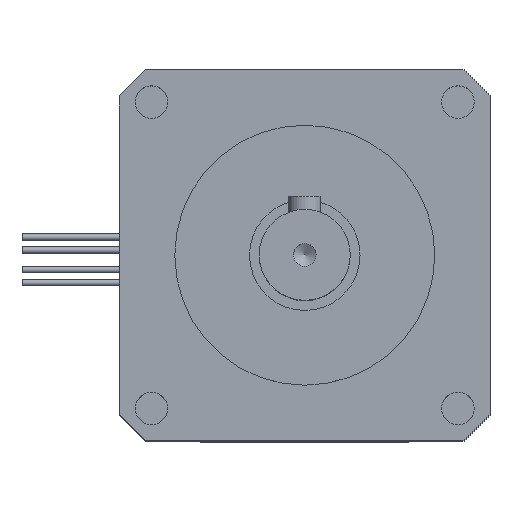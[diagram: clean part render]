
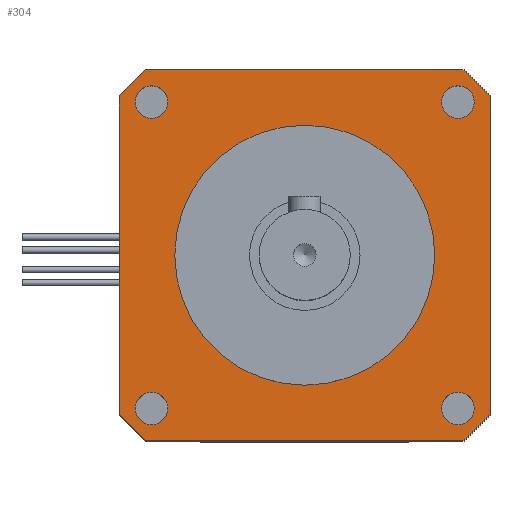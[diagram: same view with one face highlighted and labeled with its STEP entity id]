
A CAD part, top view. The second image highlights one B-rep face of the part: STEP entity #304.
In plain terms, the highlighted planar face has unit normal (0, 0, 1).
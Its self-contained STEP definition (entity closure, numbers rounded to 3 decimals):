
#304=ADVANCED_FACE('',(#1076,#1077,#1078,#1079,#1080,#1081),#456,.F.);
#456=PLANE('',#2836);
#556=LINE('',#3935,#812);
#560=LINE('',#3943,#816);
#563=LINE('',#3949,#819);
#566=LINE('',#3955,#822);
#568=LINE('',#3959,#824);
#569=LINE('',#3960,#825);
#570=LINE('',#3961,#826);
#571=LINE('',#3962,#827);
#812=VECTOR('',#3138,1.);
#816=VECTOR('',#3144,1.);
#819=VECTOR('',#3149,1.);
#822=VECTOR('',#3154,1.);
#824=VECTOR('',#3158,1.);
#825=VECTOR('',#3159,1.);
#826=VECTOR('',#3160,1.);
#827=VECTOR('',#3161,1.);
#1076=FACE_BOUND('',#1145,.T.);
#1077=FACE_BOUND('',#1146,.T.);
#1078=FACE_BOUND('',#1147,.T.);
#1079=FACE_BOUND('',#1148,.T.);
#1080=FACE_BOUND('',#1149,.T.);
#1081=FACE_BOUND('',#1150,.T.);
#1145=EDGE_LOOP('',(#1365));
#1146=EDGE_LOOP('',(#1366,#1367,#1368,#1369,#1370,#1371,#1372,#1373));
#1147=EDGE_LOOP('',(#1374));
#1148=EDGE_LOOP('',(#1375));
#1149=EDGE_LOOP('',(#1376));
#1150=EDGE_LOOP('',(#1377));
#1365=ORIENTED_EDGE('',*,*,#2340,.T.);
#1366=ORIENTED_EDGE('',*,*,#2345,.F.);
#1367=ORIENTED_EDGE('',*,*,#2353,.T.);
#1368=ORIENTED_EDGE('',*,*,#2341,.F.);
#1369=ORIENTED_EDGE('',*,*,#2354,.T.);
#1370=ORIENTED_EDGE('',*,*,#2351,.F.);
#1371=ORIENTED_EDGE('',*,*,#2355,.T.);
#1372=ORIENTED_EDGE('',*,*,#2348,.F.);
#1373=ORIENTED_EDGE('',*,*,#2356,.T.);
#1374=ORIENTED_EDGE('',*,*,#2357,.F.);
#1375=ORIENTED_EDGE('',*,*,#2358,.F.);
#1376=ORIENTED_EDGE('',*,*,#2359,.F.);
#1377=ORIENTED_EDGE('',*,*,#2360,.F.);
#2079=VERTEX_POINT('',#3932);
#2080=VERTEX_POINT('',#3936);
#2081=VERTEX_POINT('',#3937);
#2082=VERTEX_POINT('',#3942);
#2083=VERTEX_POINT('',#3944);
#2084=VERTEX_POINT('',#3948);
#2085=VERTEX_POINT('',#3950);
#2086=VERTEX_POINT('',#3954);
#2087=VERTEX_POINT('',#3956);
#2088=VERTEX_POINT('',#3964);
#2089=VERTEX_POINT('',#3966);
#2090=VERTEX_POINT('',#3968);
#2091=VERTEX_POINT('',#3970);
#2340=EDGE_CURVE('',#2079,#2079,#2700,.T.);
#2341=EDGE_CURVE('',#2080,#2081,#556,.T.);
#2345=EDGE_CURVE('',#2082,#2083,#560,.T.);
#2348=EDGE_CURVE('',#2084,#2085,#563,.T.);
#2351=EDGE_CURVE('',#2086,#2087,#566,.T.);
#2353=EDGE_CURVE('',#2082,#2081,#568,.T.);
#2354=EDGE_CURVE('',#2080,#2087,#569,.T.);
#2355=EDGE_CURVE('',#2086,#2085,#570,.T.);
#2356=EDGE_CURVE('',#2084,#2083,#571,.T.);
#2357=EDGE_CURVE('',#2088,#2088,#2701,.T.);
#2358=EDGE_CURVE('',#2089,#2089,#2702,.T.);
#2359=EDGE_CURVE('',#2090,#2090,#2703,.T.);
#2360=EDGE_CURVE('',#2091,#2091,#2704,.T.);
#2700=CIRCLE('',#2825,20.);
#2701=CIRCLE('',#2832,2.5);
#2702=CIRCLE('',#2833,2.5);
#2703=CIRCLE('',#2834,2.5);
#2704=CIRCLE('',#2835,2.5);
#2825=AXIS2_PLACEMENT_3D('',#3931,#3132,#3133);
#2832=AXIS2_PLACEMENT_3D('',#3963,#3162,#3163);
#2833=AXIS2_PLACEMENT_3D('',#3965,#3164,#3165);
#2834=AXIS2_PLACEMENT_3D('',#3967,#3166,#3167);
#2835=AXIS2_PLACEMENT_3D('',#3969,#3168,#3169);
#2836=AXIS2_PLACEMENT_3D('',#3971,#3170,#3171);
#3132=DIRECTION('',(0.,0.,-1.));
#3133=DIRECTION('',(1.,0.,0.));
#3138=DIRECTION('',(0.,1.,0.));
#3144=DIRECTION('',(1.,0.,0.));
#3149=DIRECTION('',(0.,-1.,0.));
#3154=DIRECTION('',(-1.,0.,0.));
#3158=DIRECTION('',(-0.707,-0.707,0.));
#3159=DIRECTION('',(0.707,-0.707,0.));
#3160=DIRECTION('',(0.707,0.707,0.));
#3161=DIRECTION('',(-0.707,0.707,0.));
#3162=DIRECTION('',(0.,0.,1.));
#3163=DIRECTION('',(1.,0.,0.));
#3164=DIRECTION('',(0.,0.,1.));
#3165=DIRECTION('',(1.,0.,0.));
#3166=DIRECTION('',(0.,0.,1.));
#3167=DIRECTION('',(1.,0.,0.));
#3168=DIRECTION('',(0.,0.,1.));
#3169=DIRECTION('',(1.,0.,0.));
#3170=DIRECTION('',(0.,0.,-1.));
#3171=DIRECTION('',(-1.,0.,0.));
#3931=CARTESIAN_POINT('',(0.,0.,0.));
#3932=CARTESIAN_POINT('',(20.,0.,0.));
#3935=CARTESIAN_POINT('',(-28.5,-28.5,0.));
#3936=CARTESIAN_POINT('',(-28.5,-24.5,0.));
#3937=CARTESIAN_POINT('',(-28.5,24.5,0.));
#3942=CARTESIAN_POINT('',(-24.5,28.5,0.));
#3943=CARTESIAN_POINT('',(-28.5,28.5,0.));
#3944=CARTESIAN_POINT('',(24.5,28.5,0.));
#3948=CARTESIAN_POINT('',(28.5,24.5,0.));
#3949=CARTESIAN_POINT('',(28.5,28.5,0.));
#3950=CARTESIAN_POINT('',(28.5,-24.5,0.));
#3954=CARTESIAN_POINT('',(24.5,-28.5,0.));
#3955=CARTESIAN_POINT('',(28.5,-28.5,0.));
#3956=CARTESIAN_POINT('',(-24.5,-28.5,0.));
#3959=CARTESIAN_POINT('',(-24.5,28.5,0.));
#3960=CARTESIAN_POINT('',(-28.5,-24.5,0.));
#3961=CARTESIAN_POINT('',(24.5,-28.5,0.));
#3962=CARTESIAN_POINT('',(28.5,24.5,0.));
#3963=CARTESIAN_POINT('',(-23.57,23.57,0.));
#3964=CARTESIAN_POINT('',(-21.07,23.57,0.));
#3965=CARTESIAN_POINT('',(23.57,23.57,0.));
#3966=CARTESIAN_POINT('',(26.07,23.57,0.));
#3967=CARTESIAN_POINT('',(23.57,-23.57,0.));
#3968=CARTESIAN_POINT('',(26.07,-23.57,0.));
#3969=CARTESIAN_POINT('',(-23.57,-23.57,0.));
#3970=CARTESIAN_POINT('',(-21.07,-23.57,0.));
#3971=CARTESIAN_POINT('',(-28.5,-28.5,0.));
